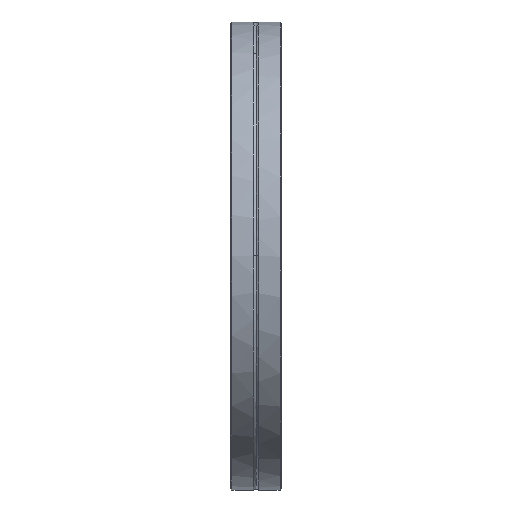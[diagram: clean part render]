
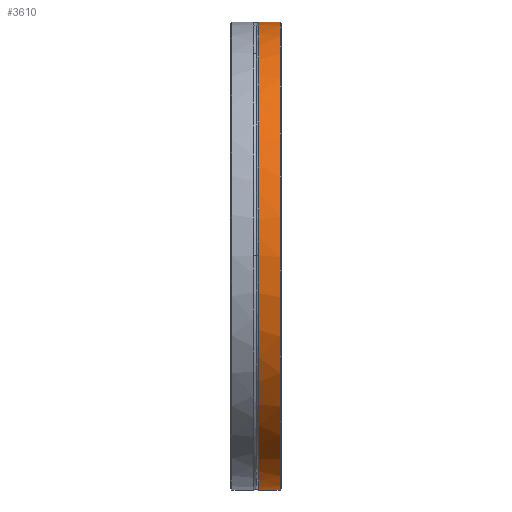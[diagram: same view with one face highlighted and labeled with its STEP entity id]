
A CAD part, top view. The second image highlights one B-rep face of the part: STEP entity #3610.
In plain terms, the highlighted cylindrical face has radius 101.25 mm (diameter 202.5 mm), a partial arc.
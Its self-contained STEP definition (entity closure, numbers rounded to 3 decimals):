
#3497=CARTESIAN_POINT('',(21.4,-101.25,0.));
#3498=VERTEX_POINT('',#3497);
#3537=CARTESIAN_POINT('',(11.,0.,0.0));
#3538=DIRECTION('',(1.0,0.,0.0));
#3539=DIRECTION('',(0.0,1.0,0.0));
#3540=AXIS2_PLACEMENT_3D('',#3537,#3538,#3539);
#3541=CYLINDRICAL_SURFACE('',#3540,101.25);
#3542=CARTESIAN_POINT('',(12.199,101.25,0.));
#3543=VERTEX_POINT('',#3542);
#3544=CARTESIAN_POINT('',(21.2,101.25,0.));
#3545=VERTEX_POINT('',#3544);
#3546=CARTESIAN_POINT('',(12.199,101.25,0.));
#3547=DIRECTION('',(1.0,0.0,0.0));
#3548=VECTOR('',#3547,9.001);
#3549=LINE('',#3546,#3548);
#3550=EDGE_CURVE('',#3543,#3545,#3549,.T.);
#3551=ORIENTED_EDGE('',*,*,#3550,.F.);
#3552=CARTESIAN_POINT('',(12.2,0.,101.25));
#3553=VERTEX_POINT('',#3552);
#3554=CARTESIAN_POINT('',(12.199,101.25,0.));
#3555=CARTESIAN_POINT('',(12.199,101.25,13.184));
#3556=CARTESIAN_POINT('',(12.199,98.674,26.242));
#3557=CARTESIAN_POINT('',(12.199,88.664,50.637));
#3558=CARTESIAN_POINT('',(12.199,81.324,61.74));
#3559=CARTESIAN_POINT('',(12.2,62.801,80.507));
#3560=CARTESIAN_POINT('',(12.2,51.795,87.992));
#3561=CARTESIAN_POINT('',(12.2,27.535,98.322));
#3562=CARTESIAN_POINT('',(12.2,14.511,101.068));
#3563=CARTESIAN_POINT('',(12.2,0.885,101.247));
#3564=CARTESIAN_POINT('',(12.2,0.443,101.25));
#3565=CARTESIAN_POINT('',(12.2,0.,101.25));
#3566=B_SPLINE_CURVE_WITH_KNOTS('',3,(#3554,#3555,#3556,#3557,#3558,#3559,#3560,#3561,#3562,#3563,#3564,#3565),.UNSPECIFIED.,.F.,.U.,(4,2,2,2,2,4),(0.0,3.955,7.911,11.866,15.821,15.954),.UNSPECIFIED.);
#3567=EDGE_CURVE('',#3543,#3553,#3566,.T.);
#3568=ORIENTED_EDGE('',*,*,#3567,.T.);
#3569=CARTESIAN_POINT('',(12.201,-101.25,0.));
#3570=VERTEX_POINT('',#3569);
#3571=CARTESIAN_POINT('',(12.2,0.,101.25));
#3572=CARTESIAN_POINT('',(12.2,-12.734,101.25));
#3573=CARTESIAN_POINT('',(12.2,-25.358,98.848));
#3574=CARTESIAN_POINT('',(12.2,-49.47,89.321));
#3575=CARTESIAN_POINT('',(12.2,-60.668,82.127));
#3576=CARTESIAN_POINT('',(12.201,-79.676,63.852));
#3577=CARTESIAN_POINT('',(12.201,-87.305,52.946));
#3578=CARTESIAN_POINT('',(12.201,-97.953,28.823));
#3579=CARTESIAN_POINT('',(12.201,-100.87,15.837));
#3580=CARTESIAN_POINT('',(12.201,-101.239,1.771));
#3581=CARTESIAN_POINT('',(12.201,-101.25,0.885));
#3582=CARTESIAN_POINT('',(12.201,-101.25,0.));
#3583=B_SPLINE_CURVE_WITH_KNOTS('',3,(#3571,#3572,#3573,#3574,#3575,#3576,#3577,#3578,#3579,#3580,#3581,#3582),.UNSPECIFIED.,.F.,.U.,(4,2,2,2,2,4),(15.954,19.776,23.732,27.687,31.642,31.908),.UNSPECIFIED.);
#3584=EDGE_CURVE('',#3553,#3570,#3583,.T.);
#3585=ORIENTED_EDGE('',*,*,#3584,.T.);
#3586=CARTESIAN_POINT('',(21.4,-101.25,0.));
#3587=DIRECTION('',(-1.0,0.0,0.0));
#3588=VECTOR('',#3587,9.199);
#3589=LINE('',#3586,#3588);
#3590=EDGE_CURVE('',#3498,#3570,#3589,.T.);
#3591=ORIENTED_EDGE('',*,*,#3590,.F.);
#3592=CARTESIAN_POINT('',(21.4,101.244,1.077));
#3593=VERTEX_POINT('',#3592);
#3594=CARTESIAN_POINT('',(21.4,0.,0.0));
#3595=DIRECTION('',(1.0,0.0,0.0));
#3596=DIRECTION('',(0.0,-1.0,0.0));
#3597=AXIS2_PLACEMENT_3D('',#3594,#3595,#3596);
#3598=CIRCLE('',#3597,101.25);
#3599=EDGE_CURVE('',#3593,#3498,#3598,.T.);
#3600=ORIENTED_EDGE('',*,*,#3599,.F.);
#3601=CARTESIAN_POINT('',(21.4,101.244,1.077));
#3602=CARTESIAN_POINT('',(21.266,101.247,0.728));
#3603=CARTESIAN_POINT('',(21.2,101.25,0.353));
#3604=CARTESIAN_POINT('',(21.2,101.25,0.));
#3605=B_SPLINE_CURVE_WITH_KNOTS('',3,(#3601,#3602,#3603,#3604),.UNSPECIFIED.,.F.,.U.,(4,4),(1.25,1.356),.UNSPECIFIED.);
#3606=EDGE_CURVE('',#3593,#3545,#3605,.T.);
#3607=ORIENTED_EDGE('',*,*,#3606,.T.);
#3608=EDGE_LOOP('',(#3551,#3568,#3585,#3591,#3600,#3607));
#3609=FACE_OUTER_BOUND('',#3608,.T.);
#3610=ADVANCED_FACE('',(#3609),#3541,.T.);
